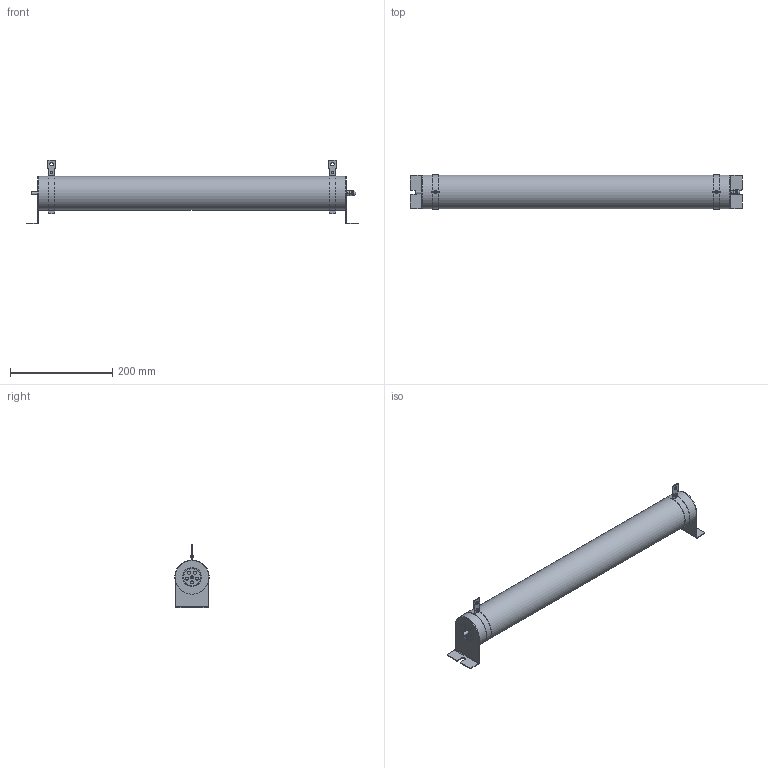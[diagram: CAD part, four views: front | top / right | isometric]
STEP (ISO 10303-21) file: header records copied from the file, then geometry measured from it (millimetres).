
FILE_DESCRIPTION(('STEP AP203'), '1');
FILE_NAME('Ðåçèñòîð òîðìîçíîé _ 2500 Âò 40 Îì', '', ('UNSPECIFIED'), ('UNSPECIFIED'), 'C3D Converter', 'C3D Toolkit', '');
FILE_SCHEMA(('CONFIG_CONTROL_DESIGN'));
Length unit declared in the file: millimetre
Products named in the file (16): 2500 Вт 40 Ом; РТ 2500 Вт 40 Ом; ГОСТ 22032-76; DIN 125 (A); DIN 127 (A); DIN 934; ГОСТ 11860-85; ГОСТ 10299-80
Assembly tree (19 placements, depth 3):
  2500 Вт 40 Ом
    РТ 2500 Вт 40 Ом
    РТ 2500 Вт 40 Ом  x2
    ГОСТ 22032-76  x2
      (unnamed)
    DIN 125 (A)
      (unnamed)
    DIN 127 (A)
      (unnamed)
    DIN 934
      (unnamed)
    ГОСТ 11860-85
      (unnamed)
    РТ 2500 Вт 40 Ом  x2
    ГОСТ 10299-80  x2
      (unnamed)
Bounding box: 650 x 67.5 x 125 mm (x, y, z)
Volume: 2076802.9 mm3; surface area: 179853.1 mm2
Topology: 15 solids, 15 shells, 287 faces, 632 edges, 385 vertices
Faces by surface type: plane 142, cylinder 108, cone 22, torus 12, sphere 3
Full cylindrical faces by diameter (mm): 3.5 x6, 4.917 x2, 5.7 x10, 6 x4, 6.4 x1, 6.5 x2, 6.8 x4, 9.5 x1, 12 x1, 35 x2, 66 x1
Entity records: 6908 total; most frequent: CARTESIAN_POINT 1807, DIRECTION 828, ORIENTED_EDGE 666, AXIS2_PLACEMENT_3D 342, EDGE_CURVE 333, EDGE_LOOP 242, VERTEX_POINT 225, ADVANCED_FACE 173
